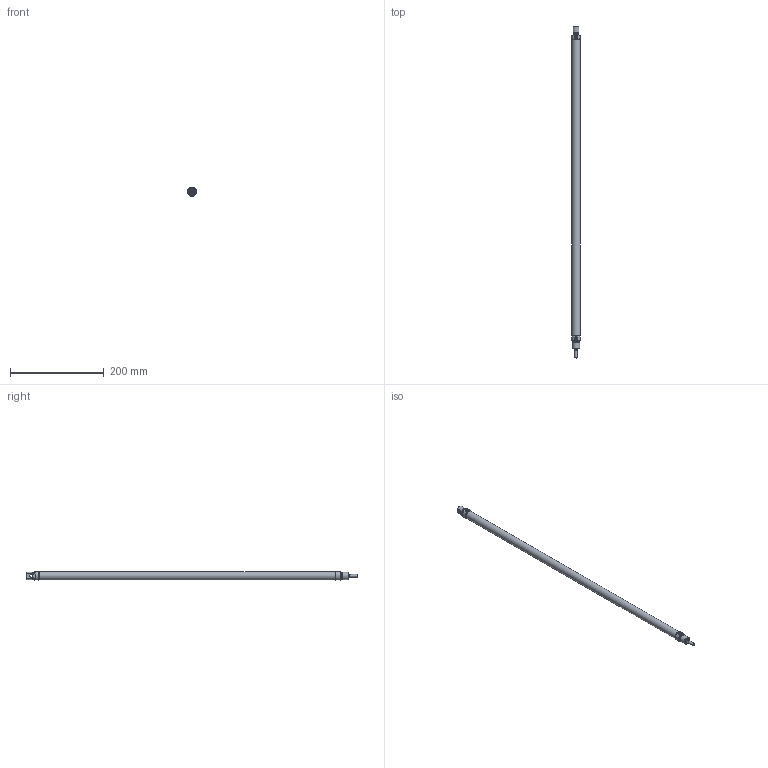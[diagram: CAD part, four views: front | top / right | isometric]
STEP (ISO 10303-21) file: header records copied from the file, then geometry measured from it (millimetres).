
FILE_DESCRIPTION((''),'2;1');
FILE_NAME('T:\Archivio Inventor\- 00 NUOVI STP PER SITO CON STELO CHE SI MUOVE\SERIE O\ODM\ODM016.---.GS.M\STEP\ODM016.600.GS.M.stp','2017-06-12T15:34:41',('carlo.corazza'),(''),'Autodesk Inventor 2013','Autodesk Inventor 2013','');
FILE_SCHEMA(('AUTOMOTIVE_DESIGN { 1 0 10303 214 1 1 1 1 }'));
Length unit declared in the file: millimetre
Products named in the file (5): ODM016..GS.M; CORPO-600; STELO-600; TA; TP
Assembly tree (4 placements, depth 2):
  ODM016..GS.M
    CORPO-600
    STELO-600
    TA
    TP
Bounding box: 18.95 x 709 x 18.14 mm (x, y, z)
Volume: 50786.4 mm3; surface area: 83733.6 mm2
Topology: 4 solids, 4 shells, 98 faces, 204 edges, 129 vertices
Faces by surface type: plane 40, cylinder 28, cone 23, torus 7
Full cylindrical faces by diameter (mm): 4 x1, 4.134 x2, 5.9 x1, 6 x2, 6.5 x1, 7.1 x1, 9 x1, 9.1 x1, 11.1 x1, 11.2 x1, 13.7 x1, 16 x3, 17.2 x2, 17.27 x1
Entity records: 2545 total; most frequent: DIRECTION 444, CARTESIAN_POINT 422, ORIENTED_EDGE 296, AXIS2_PLACEMENT_3D 198, EDGE_LOOP 162, EDGE_CURVE 148, VERTEX_POINT 118, FACE_OUTER_BOUND 98
